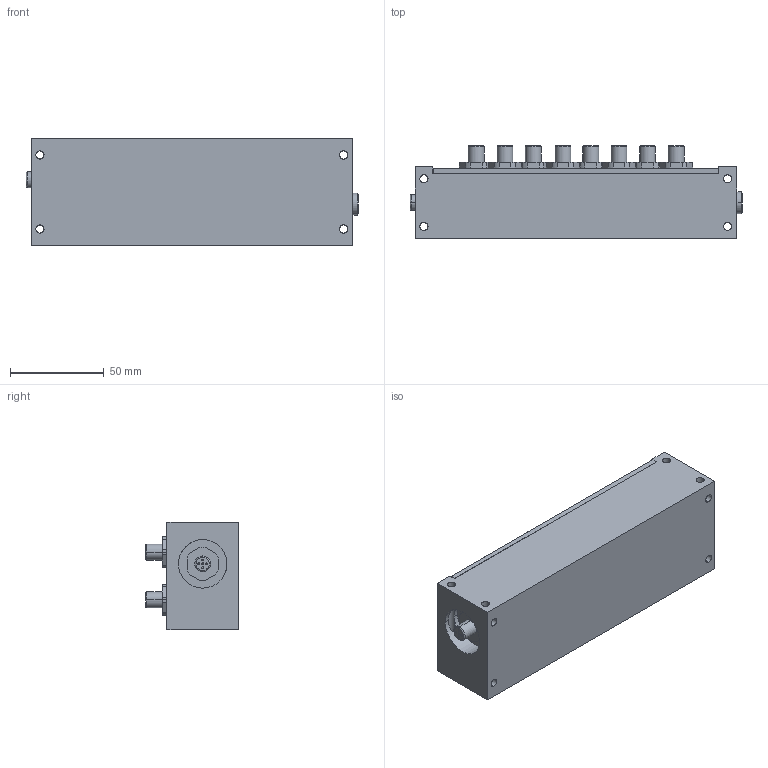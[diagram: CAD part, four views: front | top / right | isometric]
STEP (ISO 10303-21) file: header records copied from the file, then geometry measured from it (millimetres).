
FILE_DESCRIPTION (( 'STEP AP214' ), '1' );
FILE_NAME ('J-LX9-CE.STEP', '2019-02-08T15:04:04', ( '' ), ( '' ), 'SwSTEP 2.0', 'SolidWorks 2018', '' );
FILE_SCHEMA (( 'AUTOMOTIVE_DESIGN' ));
Length unit declared in the file: inch
Products named in the file (5): J-LX9-CE; Female Connector; Male Connector; J-LX9-CE Box; J-LX9-CE Lid
Assembly tree (12 placements, depth 2):
  J-LX9-CE
    J-LX9-CE Box
    J-LX9-CE Lid
    Male Connector
    Female Connector  x9
Bounding box: 177.04 x 49.51 x 57.15 mm (x, y, z)
Volume: 179887.5 mm3; surface area: 79632.3 mm2
Topology: 21 solids, 21 shells, 553 faces, 1360 edges, 863 vertices
Faces by surface type: cylinder 308, plane 189, cone 24, torus 22, sphere 10
Entity records: 10013 total; most frequent: CARTESIAN_POINT 2083, DIRECTION 1434, ORIENTED_EDGE 1392, EDGE_CURVE 696, AXIS2_PLACEMENT_3D 550, VERTEX_POINT 437, EDGE_LOOP 337, LINE 334
